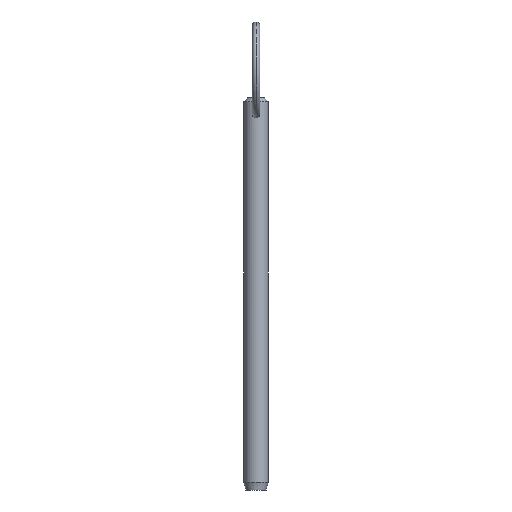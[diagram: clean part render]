
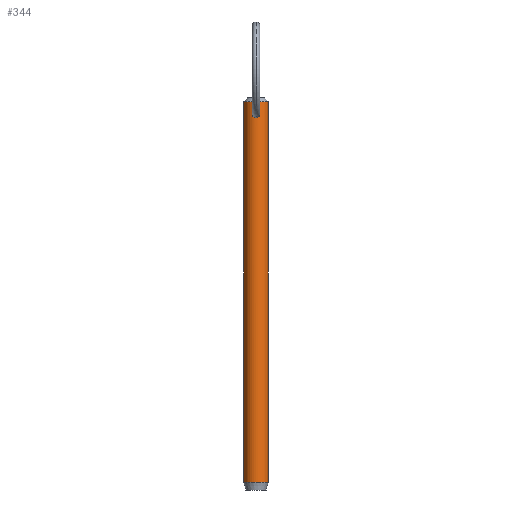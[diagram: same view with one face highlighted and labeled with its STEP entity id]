
A CAD part, front view. The second image highlights one B-rep face of the part: STEP entity #344.
In plain terms, the highlighted cylindrical face has radius 3.175 mm (diameter 6.35 mm), a partial arc.
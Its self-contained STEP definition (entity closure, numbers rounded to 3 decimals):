
#14 = FACE_OUTER_BOUND ( 'NONE', #381, .T. ) ;
#16 = ORIENTED_EDGE ( 'NONE', *, *, #208, .T. ) ;
#17 = DIRECTION ( 'NONE',  ( 0., 0., 1. ) ) ;
#18 = CARTESIAN_POINT ( 'NONE',  ( 0., -3.175, 89.303 ) ) ;
#20 = CARTESIAN_POINT ( 'NONE',  ( -3.175, 0., -5.92 ) ) ;
#26 = CARTESIAN_POINT ( 'NONE',  ( -0.067, -3.175, 91.382 ) ) ;
#33 = B_SPLINE_CURVE_WITH_KNOTS ( 'NONE', 3,
 ( #455, #271, #151, #114, #308, #306, #461, #200, #236, #275, #52, #241, #311, #466, #349, #280 ),
 .UNSPECIFIED., .F., .F.,
 ( 4, 2, 2, 2, 2, 2, 2, 4 ),
 ( 0.003, 0.003, 0.004, 0.004, 0.005, 0.005, 0.006, 0.006 ),
 .UNSPECIFIED. ) ;
#37 = DIRECTION ( 'NONE',  ( 1., 0., 0. ) ) ;
#42 = VERTEX_POINT ( 'NONE', #126 ) ;
#44 = CARTESIAN_POINT ( 'NONE',  ( 3.175, 0., -5.92 ) ) ;
#50 = AXIS2_PLACEMENT_3D ( 'NONE', #356, #17, #358 ) ;
#52 = CARTESIAN_POINT ( 'NONE',  ( 0.815, -3.07, 89.695 ) ) ;
#53 = CARTESIAN_POINT ( 'NONE',  ( -0.815, -3.07, 89.695 ) ) ;
#63 = VERTEX_POINT ( 'NONE', #18 ) ;
#67 = AXIS2_PLACEMENT_3D ( 'NONE', #463, #348, #278 ) ;
#74 = VECTOR ( 'NONE', #340, 1000. ) ;
#99 = CARTESIAN_POINT ( 'NONE',  ( 0., -3.175, 91.382 ) ) ;
#106 = VERTEX_POINT ( 'NONE', #20 ) ;
#114 = CARTESIAN_POINT ( 'NONE',  ( 0.51, -3.136, 91.234 ) ) ;
#124 = CARTESIAN_POINT ( 'NONE',  ( 0., -3.175, 89.303 ) ) ;
#126 = CARTESIAN_POINT ( 'NONE',  ( 0., -3.175, 91.382 ) ) ;
#132 = CARTESIAN_POINT ( 'NONE',  ( -0.882, -3.055, 90.86 ) ) ;
#141 = CARTESIAN_POINT ( 'NONE',  ( -0.133, -3.173, 91.374 ) ) ;
#144 = ORIENTED_EDGE ( 'NONE', *, *, #314, .T. ) ;
#151 = CARTESIAN_POINT ( 'NONE',  ( 0.269, -3.166, 91.35 ) ) ;
#165 = CARTESIAN_POINT ( 'NONE',  ( -0.269, -3.166, 89.329 ) ) ;
#169 = ORIENTED_EDGE ( 'NONE', *, *, #292, .F. ) ;
#175 = CARTESIAN_POINT ( 'NONE',  ( -0.508, -3.136, 91.235 ) ) ;
#186 = VERTEX_POINT ( 'NONE', #441 ) ;
#189 = EDGE_CURVE ( 'NONE', #106, #302, #464, .T. ) ;
#200 = CARTESIAN_POINT ( 'NONE',  ( 1.004, -3.012, 90.193 ) ) ;
#202 = CARTESIAN_POINT ( 'NONE',  ( -0.983, -3.02, 90.059 ) ) ;
#208 = EDGE_CURVE ( 'NONE', #186, #476, #414, .T. ) ;
#215 = CARTESIAN_POINT ( 'NONE',  ( -0.328, -3.159, 91.321 ) ) ;
#221 = ORIENTED_EDGE ( 'NONE', *, *, #400, .T. ) ;
#234 = CARTESIAN_POINT ( 'NONE',  ( 3.175, 0., 88.9 ) ) ;
#236 = CARTESIAN_POINT ( 'NONE',  ( 0.982, -3.02, 90.058 ) ) ;
#237 = CARTESIAN_POINT ( 'NONE',  ( -0.629, -3.114, 89.505 ) ) ;
#241 = CARTESIAN_POINT ( 'NONE',  ( 0.628, -3.114, 89.504 ) ) ;
#249 = LINE ( 'NONE', #234, #74 ) ;
#265 = AXIS2_PLACEMENT_3D ( 'NONE', #378, #380, #37 ) ;
#268 = DIRECTION ( 'NONE',  ( 0., 0., -1. ) ) ;
#270 = ORIENTED_EDGE ( 'NONE', *, *, #293, .T. ) ;
#271 = CARTESIAN_POINT ( 'NONE',  ( 0.134, -3.175, 91.382 ) ) ;
#275 = CARTESIAN_POINT ( 'NONE',  ( 0.888, -3.049, 89.809 ) ) ;
#277 = EDGE_LOOP ( 'NONE', ( #144, #221 ) ) ;
#278 = DIRECTION ( 'NONE',  ( -1., 0., 0. ) ) ;
#280 = CARTESIAN_POINT ( 'NONE',  ( 0., -3.175, 89.303 ) ) ;
#283 = ORIENTED_EDGE ( 'NONE', *, *, #189, .T. ) ;
#285 = B_SPLINE_CURVE_WITH_KNOTS ( 'NONE', 3,
 ( #124, #397, #165, #434, #237, #53, #312, #202, #470, #350, #132, #366, #175, #215, #403, #141, #26, #99 ),
 .UNSPECIFIED., .F., .F.,
 ( 4, 2, 2, 2, 2, 2, 2, 2, 4 ),
 ( 0.006, 0.006, 0.007, 0.007, 0.008, 0.008, 0.009, 0.009, 0.009 ),
 .UNSPECIFIED. ) ;
#292 = EDGE_CURVE ( 'NONE', #186, #302, #249, .T. ) ;
#293 = EDGE_CURVE ( 'NONE', #476, #106, #368, .T. ) ;
#302 = VERTEX_POINT ( 'NONE', #44 ) ;
#306 = CARTESIAN_POINT ( 'NONE',  ( 0.884, -3.055, 90.857 ) ) ;
#308 = CARTESIAN_POINT ( 'NONE',  ( 0.617, -3.116, 91.151 ) ) ;
#311 = CARTESIAN_POINT ( 'NONE',  ( 0.515, -3.135, 89.43 ) ) ;
#312 = CARTESIAN_POINT ( 'NONE',  ( -0.888, -3.049, 89.809 ) ) ;
#314 = EDGE_CURVE ( 'NONE', #42, #63, #33, .T. ) ;
#315 = VECTOR ( 'NONE', #268, 1000. ) ;
#340 = DIRECTION ( 'NONE',  ( 0., 0., -1. ) ) ;
#344 = ADVANCED_FACE ( 'NONE', ( #14, #457 ), #360, .T. ) ;
#348 = DIRECTION ( 'NONE',  ( 0., 0., -1. ) ) ;
#349 = CARTESIAN_POINT ( 'NONE',  ( 0.134, -3.175, 89.303 ) ) ;
#350 = CARTESIAN_POINT ( 'NONE',  ( -0.991, -3.016, 90.596 ) ) ;
#356 = CARTESIAN_POINT ( 'NONE',  ( 0., 0., -5.92 ) ) ;
#358 = DIRECTION ( 'NONE',  ( -1., 0., 0. ) ) ;
#360 = CYLINDRICAL_SURFACE ( 'NONE', #67, 3.175 ) ;
#365 = CARTESIAN_POINT ( 'NONE',  ( -3.175, 0., 93.48 ) ) ;
#366 = CARTESIAN_POINT ( 'NONE',  ( -0.615, -3.116, 91.153 ) ) ;
#368 = LINE ( 'NONE', #386, #315 ) ;
#378 = CARTESIAN_POINT ( 'NONE',  ( 0., 0., 93.48 ) ) ;
#380 = DIRECTION ( 'NONE',  ( 0., 0., -1. ) ) ;
#381 = EDGE_LOOP ( 'NONE', ( #169, #16, #270, #283 ) ) ;
#386 = CARTESIAN_POINT ( 'NONE',  ( -3.175, 0., 88.9 ) ) ;
#397 = CARTESIAN_POINT ( 'NONE',  ( -0.134, -3.175, 89.303 ) ) ;
#400 = EDGE_CURVE ( 'NONE', #63, #42, #285, .T. ) ;
#403 = CARTESIAN_POINT ( 'NONE',  ( -0.264, -3.165, 91.344 ) ) ;
#414 = CIRCLE ( 'NONE', #265, 3.175 ) ;
#434 = CARTESIAN_POINT ( 'NONE',  ( -0.516, -3.135, 89.431 ) ) ;
#441 = CARTESIAN_POINT ( 'NONE',  ( 3.175, 0., 93.48 ) ) ;
#455 = CARTESIAN_POINT ( 'NONE',  ( 0., -3.175, 91.382 ) ) ;
#457 = FACE_BOUND ( 'NONE', #277, .T. ) ;
#461 = CARTESIAN_POINT ( 'NONE',  ( 0.992, -3.016, 90.594 ) ) ;
#463 = CARTESIAN_POINT ( 'NONE',  ( 0., 0., 88.9 ) ) ;
#464 = CIRCLE ( 'NONE', #50, 3.175 ) ;
#466 = CARTESIAN_POINT ( 'NONE',  ( 0.268, -3.166, 89.329 ) ) ;
#470 = CARTESIAN_POINT ( 'NONE',  ( -1.004, -3.012, 90.195 ) ) ;
#476 = VERTEX_POINT ( 'NONE', #365 ) ;
